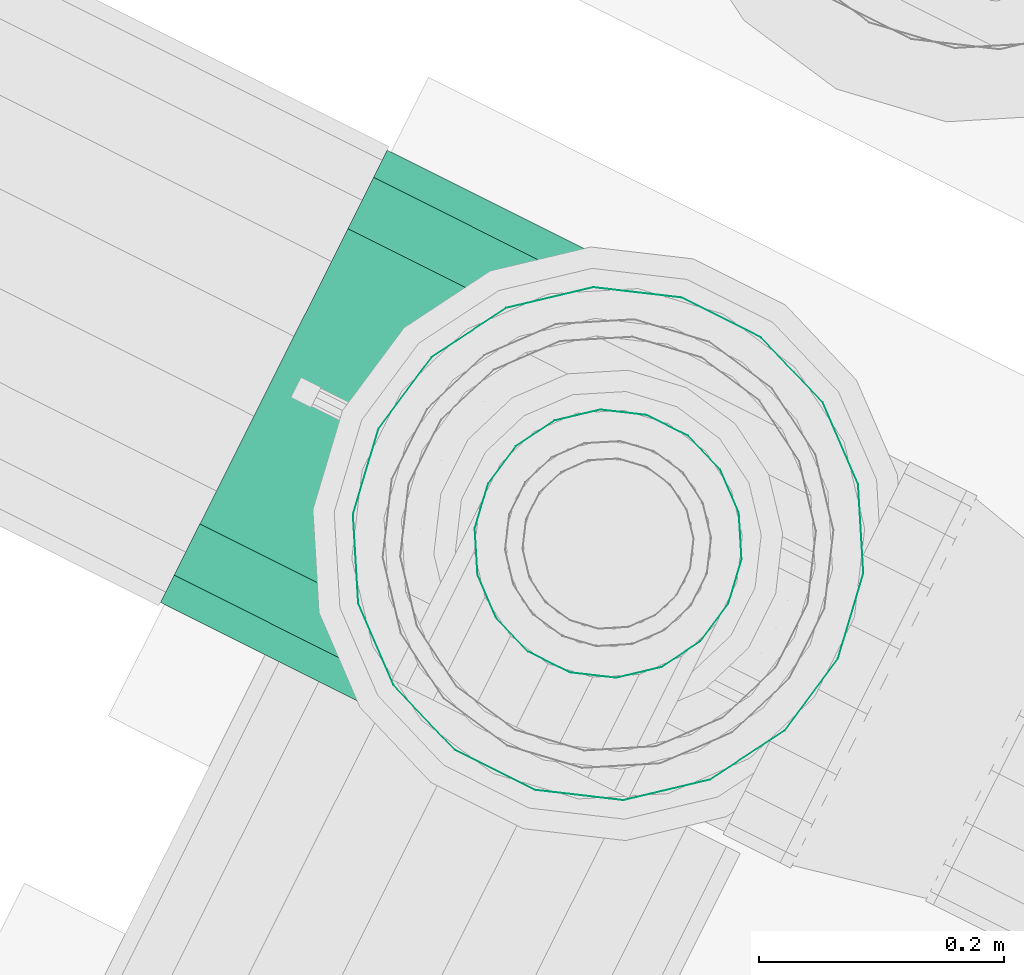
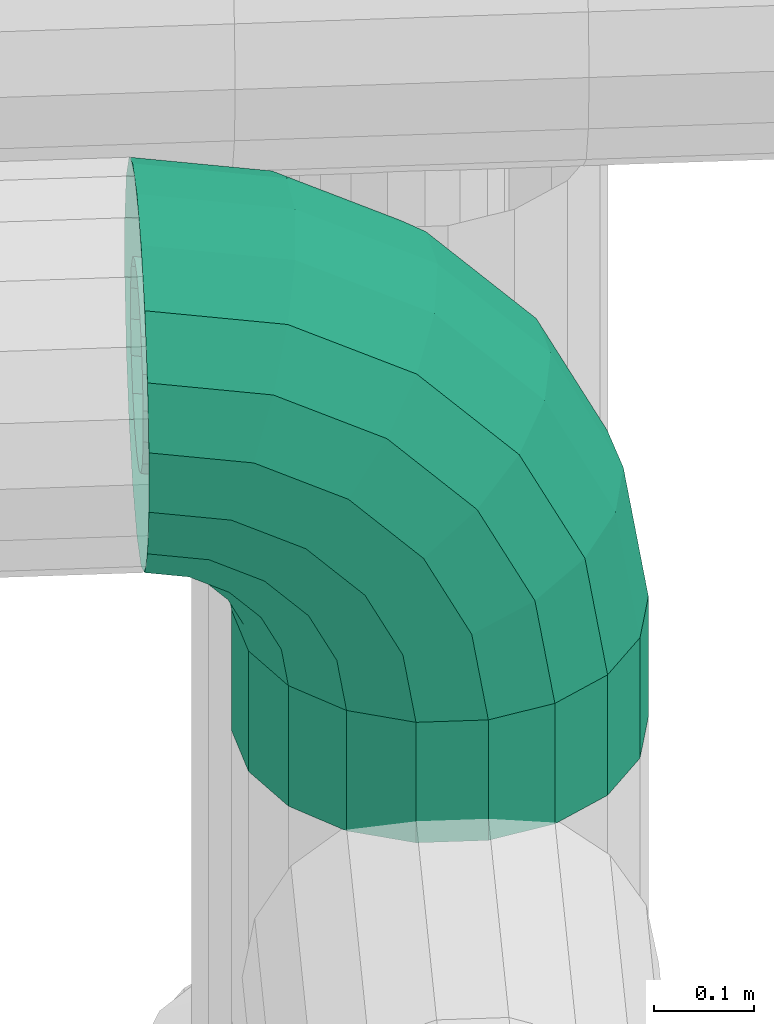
# One storey, part 113 of 152: 2 flow segments.
"""IFC2X3 building model written with IfcOpenShell, lengths in metres."""

import ifcopenshell
import ifcopenshell.guid

model = None  # the IFC model being written
_history = None  # IfcOwnerHistory: only IFC2X3 demands one
_inside = {}  # id of a spatial element -> (the spatial element, [elements in it])
_under = {}  # id of a project, library or spatial element -> (it, [spatial elements below it])
_declared = {}  # id of a project -> (the project, [libraries it declares])
_typed = {}  # id of a type object -> (the type object, [elements of that type])
_made_of = {}  # id of a material, layer set ... -> (it, [elements and type objects made of it])


def new_model(schema):
    """Start an empty IFC model of exactly this schema.

    Asked for "IFC4X3", IfcOpenShell would pick the latest addendum, in which some entities
    have other attributes; the version numbers below select the first issue.
    IFC2X3 requires an IfcOwnerHistory on every rooted entity: one is made here for all.
    """
    global model, _history
    if schema == "IFC4X3":
        model = ifcopenshell.file(schema_version=(4, 3, 0, 0))
    else:
        model = ifcopenshell.file(schema=schema)
    _inside.clear()
    _under.clear()
    _declared.clear()
    _typed.clear()
    _made_of.clear()
    _history = None
    if model.schema == "IFC2X3":
        org = make("IfcOrganization", Name="unknown")
        user = make(
            "IfcPersonAndOrganization",
            ThePerson=make("IfcPerson", FamilyName="unknown"),
            TheOrganization=org,
        )
        app = make(
            "IfcApplication",
            ApplicationDeveloper=org,
            Version="unknown",
            ApplicationFullName="unknown",
            ApplicationIdentifier="unknown",
        )
        _history = make(
            "IfcOwnerHistory",
            OwningUser=user,
            OwningApplication=app,
            ChangeAction="ADDED",
            CreationDate=0,
        )
    return model


def make(cls, **values):
    """One entity of the class cls with the attributes given. An attribute that is None is left unset."""
    return model.create_entity(
        cls, **{name: value for name, value in values.items() if value is not None}
    )


def rooted(cls, **values):
    """An entity with a GlobalId (a new one), such as an element, a storey or a relation."""
    return make(cls, GlobalId=ifcopenshell.guid.new(), OwnerHistory=_history, **values)


def si_unit(unit_type, name, prefix=None):
    """IfcSIUnit, for example si_unit("LENGTHUNIT", "METRE", prefix="MILLI")."""
    return make("IfcSIUnit", UnitType=unit_type, Prefix=prefix, Name=name)


def derived_unit(unit_type, elements):
    """IfcDerivedUnit: a product of units, each with its exponent."""
    return make(
        "IfcDerivedUnit",
        Elements=[
            make("IfcDerivedUnitElement", Unit=unit, Exponent=power)
            for unit, power in elements
        ],
        UnitType=unit_type,
    )


def assignment(units):
    """IfcUnitAssignment: the units of a project."""
    return None if units is None else make("IfcUnitAssignment", Units=units)


def point(xyz):
    """IfcCartesianPoint."""
    return None if xyz is None else make("IfcCartesianPoint", Coordinates=xyz)


def direction(xyz):
    """IfcDirection."""
    return None if xyz is None else make("IfcDirection", DirectionRatios=xyz)


def frame(location, z_axis=None, x_axis=None):
    """IfcAxis2Placement3D, a coordinate frame: its origin and axes. An axis left out is left unset."""
    return make(
        "IfcAxis2Placement3D",
        Location=point(location),
        Axis=direction(z_axis),
        RefDirection=direction(x_axis),
    )


def origin():
    """The frame at (0, 0, 0) with its axes left unset."""
    return frame((0.0, 0.0, 0.0))


def place(relative_to, where):
    """IfcLocalPlacement: puts the frame where relative to a parent placement (None: the world)."""
    return make(
        "IfcLocalPlacement", PlacementRelTo=relative_to, RelativePlacement=where
    )


def context(
    kind, dimensions, precision=None, world=None, true_north=None, identifier=None
):
    """IfcGeometricRepresentationContext, for example the 3D "Model" context."""
    return make(
        "IfcGeometricRepresentationContext",
        ContextIdentifier=identifier,
        ContextType=kind,
        CoordinateSpaceDimension=dimensions,
        Precision=precision,
        WorldCoordinateSystem=world,
        TrueNorth=true_north,
    )


def subcontext(parent, identifier, kind, view, scale=None):
    """IfcGeometricRepresentationSubContext, for example "Body" below "Model"."""
    return make(
        "IfcGeometricRepresentationSubContext",
        ContextIdentifier=identifier,
        ContextType=kind,
        ParentContext=parent,
        TargetScale=scale,
        TargetView=view,
    )


def project(units=None, contexts=None):
    """IfcProject with its units and contexts."""
    return rooted(
        "IfcProject",
        Name="project",
        RepresentationContexts=contexts,
        UnitsInContext=assignment(units),
    )


def spatial(cls, under=None, at=None, **own):
    """A site, building, storey or space (cls), placed at a placement, below another one or the project."""
    s = rooted(cls, ObjectPlacement=at, **own)
    if under is not None:
        _under.setdefault(under.id(), (under, []))[1].append(s)
    return s


def faces_of(points, faces, orient=None, outer=None):
    """IfcFace entities. A face is a list of loops; a loop is a list of indices into points, from 0.

    orient and outer hold one flag for each loop. By default every Orientation is true, the
    first loop of a face is its IfcFaceOuterBound and the others are IfcFaceBound.
    """
    made = []
    for i, loops in enumerate(faces):
        bounds = []
        for j, loop in enumerate(loops):
            is_outer = j == 0 if outer is None else outer[i][j]
            bounds.append(
                make(
                    "IfcFaceOuterBound" if is_outer else "IfcFaceBound",
                    Bound=make("IfcPolyLoop", Polygon=[points[k] for k in loop]),
                    Orientation=True if orient is None else orient[i][j],
                )
            )
        made.append(make("IfcFace", Bounds=bounds))
    return made


def face_set(faces, orient=None, outer=None):
    """The faces of one IfcConnectedFaceSet. surface_model builds it on its shared points."""
    return ("IfcConnectedFaceSet", faces, orient, outer)


def surface_model(cls, points, shells):
    """IfcFaceBasedSurfaceModel or IfcShellBasedSurfaceModel (cls): surfaces that need not close."""
    shared = [point(p) for p in points]
    made = [make(c, CfsFaces=faces_of(shared, fs, o, b)) for c, fs, o, b in shells]
    if cls == "IfcFaceBasedSurfaceModel":
        return make(cls, FbsmFaces=made)
    return make(cls, SbsmBoundary=made)


def shape(context_of_items, identifier, shape_type, items):
    """IfcShapeRepresentation: the items that make up one representation, for example the "Body"."""
    return make(
        "IfcShapeRepresentation",
        ContextOfItems=context_of_items,
        RepresentationIdentifier=identifier,
        RepresentationType=shape_type,
        Items=items,
    )


def source(mapping_origin, context_of_items, identifier, shape_type, items):
    """IfcRepresentationMap: a shape defined once, which mapped items show again and again."""
    return make(
        "IfcRepresentationMap",
        MappingOrigin=mapping_origin,
        MappedRepresentation=shape(context_of_items, identifier, shape_type, items),
    )


def transform(
    local_origin,
    x_axis=None,
    y_axis=None,
    z_axis=None,
    scale=None,
    scale2=None,
    scale3=None,
    uniform=True,
):
    """IfcCartesianTransformationOperator3D, or its non-uniform kind. x_axis, y_axis, z_axis: its Axis1, 2, 3."""
    if uniform:
        return make(
            "IfcCartesianTransformationOperator3D",
            Axis1=direction(x_axis),
            Axis2=direction(y_axis),
            LocalOrigin=point(local_origin),
            Scale=scale,
            Axis3=direction(z_axis),
        )
    return make(
        "IfcCartesianTransformationOperator3DnonUniform",
        Axis1=direction(x_axis),
        Axis2=direction(y_axis),
        LocalOrigin=point(local_origin),
        Scale=scale,
        Axis3=direction(z_axis),
        Scale2=scale2,
        Scale3=scale3,
    )


def mapped(mapping_source, mapping_target):
    """IfcMappedItem: shows the shape of a source again, moved by a transform."""
    return make(
        "IfcMappedItem", MappingSource=mapping_source, MappingTarget=mapping_target
    )


def material(Name=None, Category=None):
    """IfcMaterial."""
    return make("IfcMaterial", Name=Name, Category=Category)


def made_of(thing, what):
    """Note that an element or type object is made of a material, layer set ...; save() writes the relation."""
    if what is not None:
        _made_of.setdefault(what.id(), (what, []))[1].append(thing)
    return thing


def type_object(cls, material=None, **own):
    """A type object (cls), such as IfcWallType, which elements share."""
    return made_of(rooted(cls, **own), material)


def type_shapes(of_type, sources):
    """Give a type object the sources (RepresentationMaps) that its elements show as mapped items."""
    of_type.RepresentationMaps = sources


def element(
    cls,
    number,
    at=None,
    inside=None,
    cuts=None,
    type_object=None,
    material=None,
    context=None,
    identifier="Body",
    shape_type=None,
    held_by="IfcProductDefinitionShape",
    body=None,
    shapes=None,
    **own,
):
    """One element of the class cls, such as IfcWall. Its Tag is "e" and its number.

    at: its placement. inside: the storey or other place that contains it. cuts: it is an
    opening in that element (IfcRelVoidsElement). A single representation is given by context,
    identifier, shape_type and body (its items); several are given by shapes. held_by: the class
    of the entity that holds the representations. save() writes the other relations.
    """
    e = rooted(cls, Tag="e%d" % number, ObjectPlacement=at, **own)
    if body is not None:
        shapes = [shape(context, identifier, shape_type, body)]
    if shapes is not None:
        e.Representation = make(held_by, Representations=shapes)
    if inside is not None:
        _inside.setdefault(inside.id(), (inside, []))[1].append(e)
    if cuts is not None:
        rooted(
            "IfcRelVoidsElement", RelatingBuildingElement=cuts, RelatedOpeningElement=e
        )
    if type_object is not None:
        _typed.setdefault(type_object.id(), (type_object, []))[1].append(e)
    return made_of(e, material)


def aggregate(whole, parts):
    """IfcRelAggregates: a whole, such as a stair, and the parts it consists of."""
    return rooted("IfcRelAggregates", RelatingObject=whole, RelatedObjects=parts)


def save(model, path):
    """Write the relations noted so far, then the file.

    IfcRelAggregates (storeys below a building ...), IfcRelContainedInSpatialStructure (elements
    in a storey), IfcRelDefinesByType, IfcRelAssociatesMaterial and IfcRelDeclares: one each for
    every whole, place, type object, material and project.
    """
    for whole, parts in _under.values():
        aggregate(whole, parts)
    for where, things in _inside.values():
        rooted(
            "IfcRelContainedInSpatialStructure",
            RelatedElements=things,
            RelatingStructure=where,
        )
    for kind, things in _typed.values():
        rooted("IfcRelDefinesByType", RelatedObjects=things, RelatingType=kind)
    for what, things in _made_of.values():
        rooted("IfcRelAssociatesMaterial", RelatedObjects=things, RelatingMaterial=what)
    for by, libraries in _declared.values():
        rooted("IfcRelDeclares", RelatingContext=by, RelatedDefinitions=libraries)
    model.write(path)


model = new_model("IFC2X3")

# Units and contexts
model_context = context("Model", 3, precision=5.2338327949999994e-05, world=origin(), true_north=direction((0.0, 1.0)))
body_context = subcontext(model_context, "Body", "Model", "MODEL_VIEW")
ifc_project = project(units=[si_unit("LENGTHUNIT", "METRE"), si_unit("AREAUNIT", "SQUARE_METRE"), si_unit("VOLUMEUNIT", "CUBIC_METRE"), si_unit("MASSUNIT", "GRAM", prefix="KILO"), si_unit("PLANEANGLEUNIT", "RADIAN"), derived_unit("THERMALTRANSMITTANCEUNIT", [(si_unit("MASSUNIT", "GRAM", prefix="KILO"), 1), (si_unit("THERMODYNAMICTEMPERATUREUNIT", "KELVIN"), -1), (si_unit("TIMEUNIT", "SECOND"), -3)])], contexts=[model_context])

# Site, building, storey
site_placement = place(None, frame((0.0, 0.0, 0.0), z_axis=(0.0, 0.0, 1.0), x_axis=(0.8939966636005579, -0.4480736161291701, 0.0)))
site = spatial("IfcSite", under=ifc_project, at=site_placement, Name="Default", CompositionType="ELEMENT")
building_placement = place(site_placement, origin())
building = spatial("IfcBuilding", under=site, at=building_placement, CompositionType="ELEMENT")
storey_placement = place(building_placement, frame((0.0, 0.0, 2.7499999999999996)))
storey = spatial("IfcBuildingStorey", under=building, at=storey_placement, Name="1. Obergeschoss", CompositionType="ELEMENT", Elevation=2.7499999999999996)

# Flow segments
ifc_material = material(Name="IfcSurfaceStyle #9317")
distribution_element_type_1 = type_object("IfcDistributionElementType", Name="Rohrbogen 228539:Rohrbogen 228539", material=ifc_material)
shared_shape_1 = source(origin(), body_context, "Body", "SurfaceModel", [
    surface_model("IfcFaceBasedSurfaceModel", [(9.3207708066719, 7.3272083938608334, 5.6625788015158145), (9.3207708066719, 7.2897400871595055, 5.655972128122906), (9.44683222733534, 7.289740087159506, 5.6360059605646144), (9.448873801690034, 7.3272083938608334, 5.642289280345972), (9.560553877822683, 7.289740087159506, 5.5780618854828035), (9.564437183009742, 7.3272083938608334, 5.583406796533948), (9.650803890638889, 7.289740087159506, 5.4878118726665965), (9.656148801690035, 7.327208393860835, 5.491695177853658), (9.708747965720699, 7.28974008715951, 5.374090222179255), (9.715031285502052, 7.3272083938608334, 5.3761317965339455), (9.728714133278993, 7.28974008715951, 5.248028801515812), (9.735320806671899, 7.327208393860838, 5.248028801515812), (9.3207708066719, 7.256791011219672, 5.636948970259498), (9.44095374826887, 7.256791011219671, 5.617913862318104), (9.549372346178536, 7.256791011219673, 5.5626718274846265), (9.635413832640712, 7.256791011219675, 5.47663034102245), (9.690655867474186, 7.256791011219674, 5.368211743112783), (9.70969097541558, 7.256791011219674, 5.2480288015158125), (9.3207708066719, 7.232335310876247, 5.607803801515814), (9.431947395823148, 7.2323353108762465, 5.590195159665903), (9.532241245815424, 7.232335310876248, 5.53909289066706), (9.611834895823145, 7.232335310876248, 5.459499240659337), (9.662937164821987, 7.23233531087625, 5.359205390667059), (9.680545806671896, 7.23233531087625, 5.2480288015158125), (9.3207708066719, 7.219322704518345, 5.572051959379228), (9.42089946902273, 7.219322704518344, 5.556193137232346), (9.511226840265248, 7.219322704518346, 5.510169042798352), (9.582911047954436, 7.219322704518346, 5.438484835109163), (9.62893514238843, 7.2193227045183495, 5.348157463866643), (9.644793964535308, 7.219322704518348, 5.2480288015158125), (9.320770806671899, 7.219322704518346, 5.534005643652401), (9.409142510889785, 7.219322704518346, 5.520008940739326), (9.488863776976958, 7.219322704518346, 5.479388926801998), (9.55213093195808, 7.219322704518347, 5.416121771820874), (9.59275094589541, 7.219322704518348, 5.3364005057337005), (9.606747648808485, 7.219322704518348, 5.248028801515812), (9.320770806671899, 7.232335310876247, 5.498253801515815), (9.39809458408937, 7.232335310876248, 5.48600691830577), (9.467849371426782, 7.232335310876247, 5.45046507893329), (9.523207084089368, 7.232335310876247, 5.395107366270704), (9.558748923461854, 7.232335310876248, 5.325352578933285), (9.5709958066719, 7.23233531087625, 5.248028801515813), (9.320770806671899, 7.256791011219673, 5.46910863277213), (9.389088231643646, 7.256791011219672, 5.458288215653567), (9.45071827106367, 7.256791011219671, 5.4268861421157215), (9.499628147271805, 7.2567910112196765, 5.377976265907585), (9.531030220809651, 7.256791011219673, 5.316346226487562), (9.541850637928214, 7.256791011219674, 5.248028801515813), (9.320770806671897, 7.289740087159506, 5.4500854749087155), (9.383209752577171, 7.289740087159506, 5.440196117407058), (9.439536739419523, 7.289740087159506, 5.4114960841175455), (9.484238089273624, 7.289740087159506, 5.366794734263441), (9.51293812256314, 7.289740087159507, 5.310467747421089), (9.522827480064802, 7.28974008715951, 5.248028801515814), (9.320770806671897, 7.3272083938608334, 5.443478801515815), (9.381168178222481, 7.3272083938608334, 5.433912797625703), (9.435653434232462, 7.327208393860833, 5.406151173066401), (9.478893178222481, 7.327208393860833, 5.362911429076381), (9.506654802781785, 7.327208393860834, 5.3084261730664), (9.516220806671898, 7.327208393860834, 5.248028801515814), (9.320770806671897, 7.36467670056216, 5.450085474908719), (9.383209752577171, 7.364676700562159, 5.440196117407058), (9.439536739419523, 7.36467670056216, 5.4114960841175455), (9.484238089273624, 7.36467670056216, 5.366794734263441), (9.512938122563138, 7.3646767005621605, 5.310467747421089), (9.522827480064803, 7.3646767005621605, 5.248028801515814), (9.320770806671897, 7.397625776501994, 5.469108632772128), (9.389088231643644, 7.397625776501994, 5.458288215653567), (9.45071827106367, 7.397625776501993, 5.426886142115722), (9.499628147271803, 7.397625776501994, 5.377976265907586), (9.53103022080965, 7.397625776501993, 5.316346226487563), (9.541850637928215, 7.397625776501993, 5.248028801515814), (9.320770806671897, 7.422081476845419, 5.498253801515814), (9.398094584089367, 7.4220814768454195, 5.486006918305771), (9.467849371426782, 7.422081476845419, 5.450465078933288), (9.523207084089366, 7.42208147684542, 5.395107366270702), (9.558748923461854, 7.4220814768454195, 5.325352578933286), (9.570995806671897, 7.42208147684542, 5.248028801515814), (9.320770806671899, 7.435094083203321, 5.534005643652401), (9.409142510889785, 7.43509408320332, 5.520008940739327), (9.488863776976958, 7.43509408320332, 5.479388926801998), (9.55213093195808, 7.435094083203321, 5.416121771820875), (9.59275094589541, 7.435094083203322, 5.336400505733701), (9.606747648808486, 7.435094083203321, 5.248028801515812), (9.320770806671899, 7.435094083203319, 5.572051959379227), (9.420899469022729, 7.43509408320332, 5.556193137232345), (9.511226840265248, 7.435094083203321, 5.510169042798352), (9.582911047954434, 7.435094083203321, 5.438484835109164), (9.628935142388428, 7.435094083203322, 5.348157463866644), (9.644793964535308, 7.435094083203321, 5.248028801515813), (9.320770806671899, 7.422081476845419, 5.607803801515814), (9.431947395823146, 7.422081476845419, 5.590195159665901), (9.532241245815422, 7.422081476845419, 5.539092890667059), (9.611834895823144, 7.42208147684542, 5.459499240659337), (9.662937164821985, 7.422081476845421, 5.359205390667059), (9.680545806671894, 7.42208147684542, 5.248028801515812), (9.3207708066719, 7.397625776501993, 5.636948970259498), (9.44095374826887, 7.397625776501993, 5.6179138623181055), (9.549372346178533, 7.397625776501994, 5.562671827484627), (9.63541383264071, 7.397625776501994, 5.476630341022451), (9.690655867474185, 7.397625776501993, 5.368211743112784), (9.709690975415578, 7.397625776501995, 5.248028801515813), (9.3207708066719, 7.364676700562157, 5.655972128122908), (9.44683222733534, 7.364676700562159, 5.6360059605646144), (9.560553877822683, 7.36467670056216, 5.578061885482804), (9.65080389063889, 7.3646767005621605, 5.487811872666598), (9.708747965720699, 7.364676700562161, 5.374090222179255), (9.728714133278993, 7.364676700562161, 5.248028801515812), (9.3207708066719, 7.327208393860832, 5.762578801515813), (9.3207708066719, 7.255538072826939, 5.7499413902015), (9.475870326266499, 7.25553807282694, 5.725376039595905), (9.479775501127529, 7.327208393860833, 5.7373949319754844), (9.615787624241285, 7.2555380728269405, 5.654084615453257), (9.623215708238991, 7.327208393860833, 5.6643084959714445), (9.726826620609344, 7.25553807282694, 5.543045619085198), (9.737050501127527, 7.327208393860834, 5.550473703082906), (9.798118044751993, 7.2555380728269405, 5.4031283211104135), (9.810136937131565, 7.327208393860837, 5.407033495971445), (9.822683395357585, 7.255538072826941, 5.2480288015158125), (9.835320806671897, 7.327208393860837, 5.248028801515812), (9.320770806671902, 7.192512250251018, 5.713553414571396), (9.464625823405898, 7.192512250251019, 5.690769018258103), (9.594399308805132, 7.19251225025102, 5.6246461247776), (9.697388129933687, 7.192512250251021, 5.521657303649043), (9.763511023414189, 7.192512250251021, 5.391883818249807), (9.78629541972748, 7.192512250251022, 5.248028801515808), (9.3207708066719, 7.1457327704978, 5.657803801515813), (9.447398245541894, 7.145732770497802, 5.637747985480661), (9.561630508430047, 7.145732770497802, 5.579543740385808), (9.652285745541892, 7.145732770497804, 5.4888885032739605), (9.710489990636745, 7.145732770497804, 5.374656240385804), (9.730545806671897, 7.145732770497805, 5.248028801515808), (9.320770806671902, 7.120841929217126, 5.589416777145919), (9.426265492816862, 7.120841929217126, 5.5727080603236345), (9.521433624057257, 7.120841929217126, 5.5242174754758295), (9.596959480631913, 7.120841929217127, 5.448691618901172), (9.64545006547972, 7.120841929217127, 5.353523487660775), (9.662158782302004, 7.120841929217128, 5.248028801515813), (9.320770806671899, 7.120841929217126, 5.51664082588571), (9.403776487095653, 7.120841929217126, 5.503494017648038), (9.47865699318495, 7.120841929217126, 5.4653404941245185), (9.538082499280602, 7.120841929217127, 5.405914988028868), (9.576236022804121, 7.120841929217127, 5.331034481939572), (9.589382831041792, 7.120841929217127, 5.248028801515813), (9.320770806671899, 7.145732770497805, 5.448253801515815), (9.382643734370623, 7.145732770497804, 5.438454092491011), (9.438460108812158, 7.145732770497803, 5.41001422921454), (9.482756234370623, 7.145732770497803, 5.365718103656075), (9.511196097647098, 7.145732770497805, 5.3099017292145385), (9.520995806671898, 7.145732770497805, 5.248028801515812), (9.320770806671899, 7.192512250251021, 5.39250418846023), (9.365416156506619, 7.192512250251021, 5.385433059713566), (9.405691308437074, 7.192512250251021, 5.364911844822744), (9.437653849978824, 7.192512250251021, 5.332949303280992), (9.458175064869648, 7.192512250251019, 5.2926741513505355), (9.465246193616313, 7.19251225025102, 5.248028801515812), (9.320770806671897, 7.2555380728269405, 5.356116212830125), (9.354171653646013, 7.25553807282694, 5.350826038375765), (9.384302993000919, 7.2555380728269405, 5.335473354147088), (9.408215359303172, 7.25553807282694, 5.311560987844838), (9.423568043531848, 7.25553807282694, 5.281429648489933), (9.428858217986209, 7.25553807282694, 5.248028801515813), (9.320770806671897, 7.3272083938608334, 5.343478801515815), (9.350266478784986, 7.3272083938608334, 5.338807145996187), (9.376874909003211, 7.3272083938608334, 5.3252494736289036), (9.397991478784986, 7.3272083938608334, 5.304132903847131), (9.411549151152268, 7.3272083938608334, 5.277524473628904), (9.416220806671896, 7.327208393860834, 5.248028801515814), (9.320770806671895, 7.398878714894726, 5.356116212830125), (9.354171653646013, 7.398878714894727, 5.350826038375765), (9.384302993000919, 7.398878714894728, 5.335473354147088), (9.40821535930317, 7.398878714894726, 5.311560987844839), (9.423568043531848, 7.398878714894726, 5.281429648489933), (9.428858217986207, 7.398878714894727, 5.248028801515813), (9.320770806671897, 7.461904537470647, 5.392504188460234), (9.365416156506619, 7.461904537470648, 5.385433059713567), (9.40569130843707, 7.461904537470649, 5.3649118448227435), (9.437653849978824, 7.461904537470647, 5.332949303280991), (9.458175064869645, 7.461904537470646, 5.2926741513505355), (9.465246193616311, 7.461904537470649, 5.248028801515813), (9.320770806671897, 7.508684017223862, 5.448253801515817), (9.38264373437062, 7.508684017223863, 5.438454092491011), (9.438460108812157, 7.508684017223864, 5.410014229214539), (9.482756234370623, 7.508684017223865, 5.365718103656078), (9.511196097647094, 7.508684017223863, 5.309901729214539), (9.520995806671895, 7.508684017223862, 5.248028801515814), (9.320770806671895, 7.533574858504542, 5.51664082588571), (9.403776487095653, 7.533574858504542, 5.503494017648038), (9.478656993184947, 7.533574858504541, 5.4653404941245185), (9.5380824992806, 7.533574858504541, 5.405914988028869), (9.576236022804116, 7.533574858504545, 5.3310344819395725), (9.589382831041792, 7.533574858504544, 5.248028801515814), (9.320770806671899, 7.533574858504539, 5.589416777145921), (9.426265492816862, 7.53357485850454, 5.572708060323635), (9.521433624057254, 7.533574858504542, 5.5242174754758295), (9.596959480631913, 7.533574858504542, 5.448691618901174), (9.645450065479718, 7.533574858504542, 5.353523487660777), (9.662158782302, 7.533574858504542, 5.248028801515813), (9.320770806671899, 7.508684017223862, 5.657803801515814), (9.447398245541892, 7.508684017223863, 5.6377479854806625), (9.561630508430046, 7.508684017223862, 5.579543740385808), (9.652285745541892, 7.508684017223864, 5.488888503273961), (9.710489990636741, 7.508684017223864, 5.374656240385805), (9.730545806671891, 7.508684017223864, 5.248028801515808), (9.3207708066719, 7.461904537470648, 5.713553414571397), (9.464625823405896, 7.461904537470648, 5.6907690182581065), (9.59439930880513, 7.461904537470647, 5.624646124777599), (9.697388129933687, 7.461904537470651, 5.521657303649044), (9.763511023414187, 7.461904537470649, 5.391883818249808), (9.786295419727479, 7.461904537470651, 5.248028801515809), (9.320770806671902, 7.398878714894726, 5.749941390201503), (9.475870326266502, 7.398878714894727, 5.725376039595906), (9.615787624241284, 7.398878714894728, 5.654084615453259), (9.726826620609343, 7.39887871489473, 5.543045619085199), (9.798118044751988, 7.39887871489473, 5.4031283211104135), (9.822683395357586, 7.398878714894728, 5.2480288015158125)], [face_set([[[0, 1, 2, 3]], [[3, 2, 4, 5]], [[5, 4, 6, 7]], [[7, 6, 8, 9]], [[9, 8, 10, 11]], [[1, 12, 13, 2]], [[2, 13, 14, 4]], [[4, 14, 15, 6]], [[6, 15, 16, 8]], [[8, 16, 17, 10]], [[12, 18, 19, 13]], [[13, 19, 20, 14]], [[14, 20, 21, 15]], [[15, 21, 22, 16]], [[16, 22, 23, 17]], [[18, 24, 25, 19]], [[19, 25, 26, 20]], [[20, 26, 27, 21]], [[21, 27, 28, 22]], [[22, 28, 29, 23]], [[24, 30, 31, 25]], [[25, 31, 32, 26]], [[26, 32, 33, 27]], [[27, 33, 34, 28]], [[28, 34, 35, 29]], [[30, 36, 37, 31]], [[31, 37, 38, 32]], [[32, 38, 39, 33]], [[33, 39, 40, 34]], [[34, 40, 41, 35]], [[36, 42, 43, 37]], [[37, 43, 44, 38]], [[38, 44, 45, 39]], [[39, 45, 46, 40]], [[40, 46, 47, 41]], [[42, 48, 49, 43]], [[43, 49, 50, 44]], [[44, 50, 51, 45]], [[45, 51, 52, 46]], [[46, 52, 53, 47]], [[48, 54, 55, 49]], [[49, 55, 56, 50]], [[50, 56, 57, 51]], [[51, 57, 58, 52]], [[52, 58, 59, 53]], [[54, 60, 61, 55]], [[55, 61, 62, 56]], [[56, 62, 63, 57]], [[57, 63, 64, 58]], [[58, 64, 65, 59]], [[60, 66, 67, 61]], [[61, 67, 68, 62]], [[62, 68, 69, 63]], [[63, 69, 70, 64]], [[64, 70, 71, 65]], [[66, 72, 73, 67]], [[67, 73, 74, 68]], [[68, 74, 75, 69]], [[69, 75, 76, 70]], [[70, 76, 77, 71]], [[72, 78, 79, 73]], [[73, 79, 80, 74]], [[74, 80, 81, 75]], [[75, 81, 82, 76]], [[76, 82, 83, 77]], [[78, 84, 85, 79]], [[79, 85, 86, 80]], [[80, 86, 87, 81]], [[81, 87, 88, 82]], [[82, 88, 89, 83]], [[84, 90, 91, 85]], [[85, 91, 92, 86]], [[86, 92, 93, 87]], [[87, 93, 94, 88]], [[88, 94, 95, 89]], [[90, 96, 97, 91]], [[91, 97, 98, 92]], [[92, 98, 99, 93]], [[93, 99, 100, 94]], [[94, 100, 101, 95]], [[96, 102, 103, 97]], [[97, 103, 104, 98]], [[98, 104, 105, 99]], [[99, 105, 106, 100]], [[100, 106, 107, 101]], [[102, 0, 3, 103]], [[103, 3, 5, 104]], [[104, 5, 7, 105]], [[105, 7, 9, 106]], [[106, 9, 11, 107]], [[108, 109, 110, 111]], [[111, 110, 112, 113]], [[113, 112, 114, 115]], [[115, 114, 116, 117]], [[117, 116, 118, 119]], [[109, 120, 121, 110]], [[110, 121, 122, 112]], [[112, 122, 123, 114]], [[114, 123, 124, 116]], [[116, 124, 125, 118]], [[120, 126, 127, 121]], [[121, 127, 128, 122]], [[122, 128, 129, 123]], [[123, 129, 130, 124]], [[124, 130, 131, 125]], [[126, 132, 133, 127]], [[127, 133, 134, 128]], [[128, 134, 135, 129]], [[129, 135, 136, 130]], [[130, 136, 137, 131]], [[132, 138, 139, 133]], [[133, 139, 140, 134]], [[134, 140, 141, 135]], [[135, 141, 142, 136]], [[136, 142, 143, 137]], [[138, 144, 145, 139]], [[139, 145, 146, 140]], [[140, 146, 147, 141]], [[141, 147, 148, 142]], [[142, 148, 149, 143]], [[144, 150, 151, 145]], [[145, 151, 152, 146]], [[146, 152, 153, 147]], [[147, 153, 154, 148]], [[148, 154, 155, 149]], [[150, 156, 157, 151]], [[151, 157, 158, 152]], [[152, 158, 159, 153]], [[153, 159, 160, 154]], [[154, 160, 161, 155]], [[156, 162, 163, 157]], [[157, 163, 164, 158]], [[158, 164, 165, 159]], [[159, 165, 166, 160]], [[160, 166, 167, 161]], [[162, 168, 169, 163]], [[163, 169, 170, 164]], [[164, 170, 171, 165]], [[165, 171, 172, 166]], [[166, 172, 173, 167]], [[168, 174, 175, 169]], [[169, 175, 176, 170]], [[170, 176, 177, 171]], [[171, 177, 178, 172]], [[172, 178, 179, 173]], [[174, 180, 181, 175]], [[175, 181, 182, 176]], [[176, 182, 183, 177]], [[177, 183, 184, 178]], [[178, 184, 185, 179]], [[180, 186, 187, 181]], [[181, 187, 188, 182]], [[182, 188, 189, 183]], [[183, 189, 190, 184]], [[184, 190, 191, 185]], [[186, 192, 193, 187]], [[187, 193, 194, 188]], [[188, 194, 195, 189]], [[189, 195, 196, 190]], [[190, 196, 197, 191]], [[192, 198, 199, 193]], [[193, 199, 200, 194]], [[194, 200, 201, 195]], [[195, 201, 202, 196]], [[196, 202, 203, 197]], [[198, 204, 205, 199]], [[199, 205, 206, 200]], [[200, 206, 207, 201]], [[201, 207, 208, 202]], [[202, 208, 209, 203]], [[204, 210, 211, 205]], [[205, 211, 212, 206]], [[206, 212, 213, 207]], [[207, 213, 214, 208]], [[208, 214, 215, 209]], [[210, 108, 111, 211]], [[211, 111, 113, 212]], [[212, 113, 115, 213]], [[213, 115, 117, 214]], [[214, 117, 119, 215]]])]),
])
type_shapes(distribution_element_type_1, [shared_shape_1])
flow_segment_1_placement = place(storey_placement, frame((0.0, 0.0, -2.7499999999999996)))
element("IfcFlowSegment", 1, at=flow_segment_1_placement, inside=storey, type_object=distribution_element_type_1, material=ifc_material, Name="Rohrbogen", ObjectType="Rohrbogen", context=body_context, shape_type="MappedRepresentation", body=[
    mapped(shared_shape_1, transform((0.0, 0.0, 0.0), scale=1.0)),
])
distribution_element_type_2 = type_object("IfcDistributionElementType", Name="Stahlrohr nach DIN 2448 228568:Stahlrohr nach DIN 2448 228568", material=ifc_material)
shared_shape_2 = source(origin(), body_context, "Body", "SurfaceModel", [
    surface_model("IfcFaceBasedSurfaceModel", [(9.735320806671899, 7.327208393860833, 5.100306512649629), (9.728714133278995, 7.36467670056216, 5.100306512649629), (9.728714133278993, 7.364676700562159, 5.248028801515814), (9.735320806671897, 7.3272083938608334, 5.248028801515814), (9.709690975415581, 7.397625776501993, 5.100306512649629), (9.709690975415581, 7.397625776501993, 5.248028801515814), (9.680545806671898, 7.422081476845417, 5.100306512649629), (9.680545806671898, 7.422081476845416, 5.248028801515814), (9.644793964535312, 7.43509408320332, 5.100306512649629), (9.644793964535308, 7.435094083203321, 5.248028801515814), (9.606747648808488, 7.435094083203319, 5.100306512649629), (9.606747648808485, 7.435094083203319, 5.248028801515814), (9.570995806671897, 7.422081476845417, 5.100306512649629), (9.570995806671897, 7.422081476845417, 5.248028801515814), (9.541850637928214, 7.39762577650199, 5.100306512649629), (9.541850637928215, 7.397625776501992, 5.248028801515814), (9.522827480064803, 7.364676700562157, 5.100306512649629), (9.522827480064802, 7.36467670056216, 5.248028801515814), (9.516220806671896, 7.327208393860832, 5.100306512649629), (9.516220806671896, 7.327208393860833, 5.248028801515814), (9.522827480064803, 7.289740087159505, 5.100306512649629), (9.522827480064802, 7.289740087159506, 5.248028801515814), (9.541850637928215, 7.256791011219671, 5.100306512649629), (9.541850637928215, 7.256791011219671, 5.248028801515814), (9.570995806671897, 7.232335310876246, 5.100306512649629), (9.570995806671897, 7.2323353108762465, 5.248028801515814), (9.606747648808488, 7.219322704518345, 5.100306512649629), (9.606747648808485, 7.219322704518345, 5.248028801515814), (9.644793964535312, 7.219322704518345, 5.100306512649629), (9.644793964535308, 7.219322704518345, 5.248028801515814), (9.6805458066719, 7.2323353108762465, 5.100306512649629), (9.6805458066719, 7.2323353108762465, 5.248028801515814), (9.709690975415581, 7.256791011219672, 5.100306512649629), (9.709690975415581, 7.256791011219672, 5.248028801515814), (9.728714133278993, 7.2897400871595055, 5.100306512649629), (9.728714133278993, 7.289740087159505, 5.248028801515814), (9.8353208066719, 7.327208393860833, 5.100306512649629), (9.822683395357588, 7.398878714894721, 5.100306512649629), (9.822683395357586, 7.398878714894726, 5.248028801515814), (9.835320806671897, 7.3272083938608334, 5.248028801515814), (9.786295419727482, 7.461904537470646, 5.100306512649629), (9.78629541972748, 7.461904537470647, 5.248028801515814), (9.730545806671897, 7.508684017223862, 5.100306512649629), (9.730545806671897, 7.508684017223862, 5.248028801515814), (9.662158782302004, 7.53357485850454, 5.100306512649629), (9.662158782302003, 7.53357485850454, 5.248028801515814), (9.589382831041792, 7.53357485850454, 5.100306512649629), (9.589382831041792, 7.53357485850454, 5.248028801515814), (9.5209958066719, 7.508684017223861, 5.100306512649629), (9.5209958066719, 7.508684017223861, 5.248028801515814), (9.465246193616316, 7.461904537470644, 5.100306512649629), (9.465246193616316, 7.461904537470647, 5.248028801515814), (9.428858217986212, 7.398878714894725, 5.100306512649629), (9.428858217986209, 7.3988787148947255, 5.248028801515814), (9.416220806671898, 7.32720839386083, 5.100306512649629), (9.4162208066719, 7.3272083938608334, 5.248028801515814), (9.428858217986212, 7.255538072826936, 5.100306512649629), (9.42885821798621, 7.255538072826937, 5.248028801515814), (9.465246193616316, 7.192512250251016, 5.100306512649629), (9.465246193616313, 7.192512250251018, 5.248028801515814), (9.520995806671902, 7.145732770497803, 5.100306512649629), (9.5209958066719, 7.145732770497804, 5.248028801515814), (9.589382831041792, 7.1208419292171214, 5.100306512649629), (9.589382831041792, 7.1208419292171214, 5.248028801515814), (9.662158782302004, 7.120841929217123, 5.100306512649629), (9.662158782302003, 7.120841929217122, 5.248028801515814), (9.730545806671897, 7.145732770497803, 5.100306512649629), (9.730545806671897, 7.145732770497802, 5.248028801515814), (9.786295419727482, 7.192512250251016, 5.100306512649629), (9.78629541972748, 7.192512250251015, 5.248028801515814), (9.822683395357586, 7.255538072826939, 5.100306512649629), (9.822683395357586, 7.255538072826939, 5.248028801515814)], [face_set([[[0, 1, 2, 3]], [[1, 4, 5, 2]], [[4, 6, 7, 5]], [[6, 8, 9, 7]], [[8, 10, 11, 9]], [[10, 12, 13, 11]], [[12, 14, 15, 13]], [[14, 16, 17, 15]], [[16, 18, 19, 17]], [[18, 20, 21, 19]], [[20, 22, 23, 21]], [[22, 24, 25, 23]], [[24, 26, 27, 25]], [[26, 28, 29, 27]], [[28, 30, 31, 29]], [[30, 32, 33, 31]], [[32, 34, 35, 33]], [[34, 0, 3, 35]], [[36, 37, 38, 39]], [[37, 40, 41, 38]], [[40, 42, 43, 41]], [[42, 44, 45, 43]], [[44, 46, 47, 45]], [[46, 48, 49, 47]], [[48, 50, 51, 49]], [[50, 52, 53, 51]], [[52, 54, 55, 53]], [[54, 56, 57, 55]], [[56, 58, 59, 57]], [[58, 60, 61, 59]], [[60, 62, 63, 61]], [[62, 64, 65, 63]], [[64, 66, 67, 65]], [[66, 68, 69, 67]], [[68, 70, 71, 69]], [[70, 36, 39, 71]]])]),
])
type_shapes(distribution_element_type_2, [shared_shape_2])
flow_segment_2_placement = place(storey_placement, frame((0.0, 0.0, -2.7499999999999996)))
element("IfcFlowSegment", 2, at=flow_segment_2_placement, inside=storey, type_object=distribution_element_type_2, material=ifc_material, Name="Stahlrohr nach DIN 2448", ObjectType="Stahlrohr nach DIN 2448", context=body_context, shape_type="MappedRepresentation", body=[
    mapped(shared_shape_2, transform((0.0, 0.0, 0.0), scale=1.0)),
])

save(model, "model.ifc")
